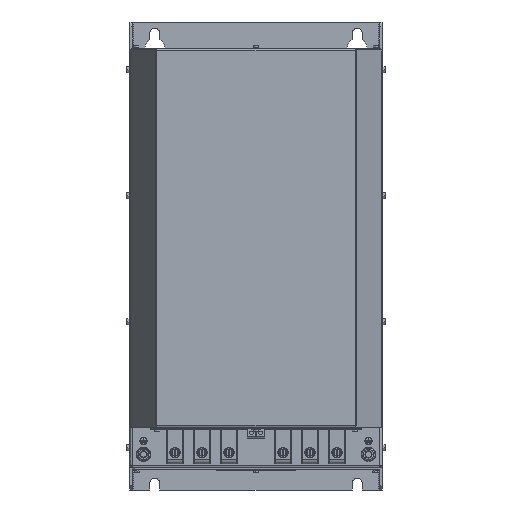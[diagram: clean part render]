
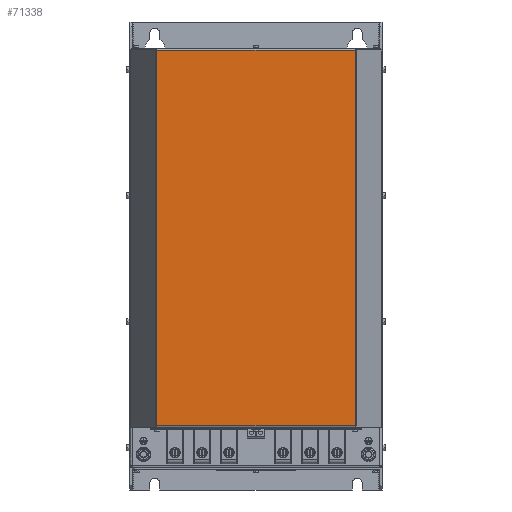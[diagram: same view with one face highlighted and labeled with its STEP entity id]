
A CAD part, front view. The second image highlights one B-rep face of the part: STEP entity #71338.
In plain terms, the highlighted planar face has unit normal (0, -1, 0).
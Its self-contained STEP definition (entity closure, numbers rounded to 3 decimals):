
#71299=CARTESIAN_POINT('',(110.093,-248.,-190.5));
#71300=DIRECTION('',(0.0,-1.0,0.0));
#71301=DIRECTION('',(0.0,0.0,-1.0));
#71302=AXIS2_PLACEMENT_3D('',#71299,#71300,#71301);
#71303=PLANE('',#71302);
#71304=CARTESIAN_POINT('',(-110.093,-248.,-188.7));
#71305=VERTEX_POINT('',#71304);
#71306=CARTESIAN_POINT('',(110.093,-248.,-188.7));
#71307=VERTEX_POINT('',#71306);
#71308=CARTESIAN_POINT('',(-110.093,-248.,-188.7));
#71309=DIRECTION('',(1.0,0.0,0.0));
#71310=VECTOR('',#71309,220.187);
#71311=LINE('',#71308,#71310);
#71312=EDGE_CURVE('',#71305,#71307,#71311,.T.);
#71313=ORIENTED_EDGE('',*,*,#71312,.T.);
#71314=CARTESIAN_POINT('',(110.093,-248.,228.7));
#71315=VERTEX_POINT('',#71314);
#71316=CARTESIAN_POINT('',(110.093,-248.,-188.7));
#71317=DIRECTION('',(0.0,0.0,1.0));
#71318=VECTOR('',#71317,417.4);
#71319=LINE('',#71316,#71318);
#71320=EDGE_CURVE('',#71307,#71315,#71319,.T.);
#71321=ORIENTED_EDGE('',*,*,#71320,.T.);
#71322=CARTESIAN_POINT('',(-110.093,-248.,228.7));
#71323=VERTEX_POINT('',#71322);
#71324=CARTESIAN_POINT('',(110.093,-248.,228.7));
#71325=DIRECTION('',(-1.0,0.0,0.0));
#71326=VECTOR('',#71325,220.187);
#71327=LINE('',#71324,#71326);
#71328=EDGE_CURVE('',#71315,#71323,#71327,.T.);
#71329=ORIENTED_EDGE('',*,*,#71328,.T.);
#71330=CARTESIAN_POINT('',(-110.093,-248.,-188.7));
#71331=DIRECTION('',(0.0,0.0,1.0));
#71332=VECTOR('',#71331,417.4);
#71333=LINE('',#71330,#71332);
#71334=EDGE_CURVE('',#71305,#71323,#71333,.T.);
#71335=ORIENTED_EDGE('',*,*,#71334,.F.);
#71336=EDGE_LOOP('',(#71313,#71321,#71329,#71335));
#71337=FACE_OUTER_BOUND('',#71336,.T.);
#71338=ADVANCED_FACE('',(#71337),#71303,.T.);
